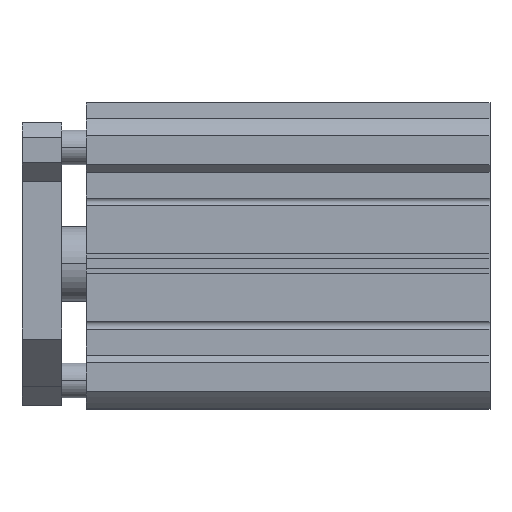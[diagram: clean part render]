
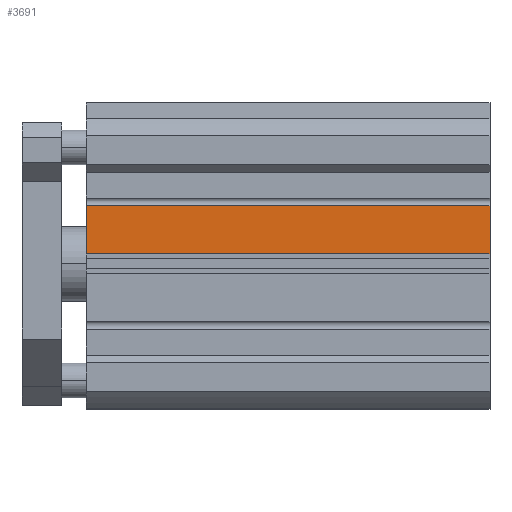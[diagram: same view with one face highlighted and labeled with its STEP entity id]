
A CAD part, top view. The second image highlights one B-rep face of the part: STEP entity #3691.
In plain terms, the highlighted planar face has unit normal (0, 0, 1).
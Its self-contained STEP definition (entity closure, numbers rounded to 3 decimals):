
#29 = PLANE ( 'NONE',  #5023 ) ;
#168 = CARTESIAN_POINT ( 'NONE',  ( 0., 4., 55.5 ) ) ;
#336 = ORIENTED_EDGE ( 'NONE', *, *, #4161, .T. ) ;
#421 = DIRECTION ( 'NONE',  ( -1., 0., 0. ) ) ;
#757 = VECTOR ( 'NONE', #421, 1000. ) ;
#818 = EDGE_CURVE ( 'NONE', #1981, #3758, #2414, .T. ) ;
#921 = CARTESIAN_POINT ( 'NONE',  ( 163., 23.5, 55.5 ) ) ;
#1481 = CARTESIAN_POINT ( 'NONE',  ( 163., 23.5, 55.5 ) ) ;
#1662 = DIRECTION ( 'NONE',  ( -1., 0., 0. ) ) ;
#1694 = LINE ( 'NONE', #5956, #3646 ) ;
#1813 = LINE ( 'NONE', #2705, #757 ) ;
#1981 = VERTEX_POINT ( 'NONE', #4240 ) ;
#2093 = ORIENTED_EDGE ( 'NONE', *, *, #818, .F. ) ;
#2216 = EDGE_CURVE ( 'NONE', #5491, #5649, #3715, .T. ) ;
#2263 = ORIENTED_EDGE ( 'NONE', *, *, #2216, .T. ) ;
#2376 = CARTESIAN_POINT ( 'NONE',  ( 0., 23.5, 55.5 ) ) ;
#2414 = LINE ( 'NONE', #1481, #4000 ) ;
#2705 = CARTESIAN_POINT ( 'NONE',  ( 163., 23.5, 55.5 ) ) ;
#2771 = DIRECTION ( 'NONE',  ( 0., 0., -1. ) ) ;
#3173 = EDGE_LOOP ( 'NONE', ( #2263, #5507, #2093, #336 ) ) ;
#3237 = VECTOR ( 'NONE', #4207, 1000. ) ;
#3296 = FACE_OUTER_BOUND ( 'NONE', #3173, .T. ) ;
#3594 = EDGE_CURVE ( 'NONE', #3758, #5649, #1694, .T. ) ;
#3646 = VECTOR ( 'NONE', #1662, 1000. ) ;
#3691 = ADVANCED_FACE ( 'NONE', ( #3296 ), #29, .F. ) ;
#3715 = LINE ( 'NONE', #5190, #3237 ) ;
#3758 = VERTEX_POINT ( 'NONE', #4254 ) ;
#4000 = VECTOR ( 'NONE', #5830, 1000. ) ;
#4161 = EDGE_CURVE ( 'NONE', #1981, #5491, #1813, .T. ) ;
#4207 = DIRECTION ( 'NONE',  ( 0., -1., 0. ) ) ;
#4240 = CARTESIAN_POINT ( 'NONE',  ( 163., 23.5, 55.5 ) ) ;
#4254 = CARTESIAN_POINT ( 'NONE',  ( 163., 4., 55.5 ) ) ;
#4653 = DIRECTION ( 'NONE',  ( 0., -1., 0. ) ) ;
#5023 = AXIS2_PLACEMENT_3D ( 'NONE', #921, #2771, #4653 ) ;
#5190 = CARTESIAN_POINT ( 'NONE',  ( 0., 23.5, 55.5 ) ) ;
#5491 = VERTEX_POINT ( 'NONE', #2376 ) ;
#5507 = ORIENTED_EDGE ( 'NONE', *, *, #3594, .F. ) ;
#5649 = VERTEX_POINT ( 'NONE', #168 ) ;
#5830 = DIRECTION ( 'NONE',  ( 0., -1., 0. ) ) ;
#5956 = CARTESIAN_POINT ( 'NONE',  ( 163., 4., 55.5 ) ) ;
